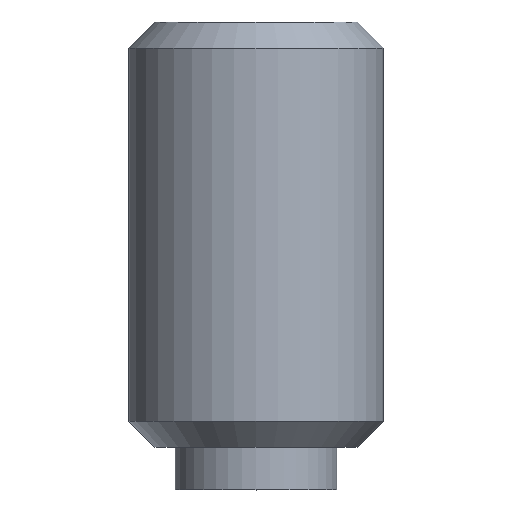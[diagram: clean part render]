
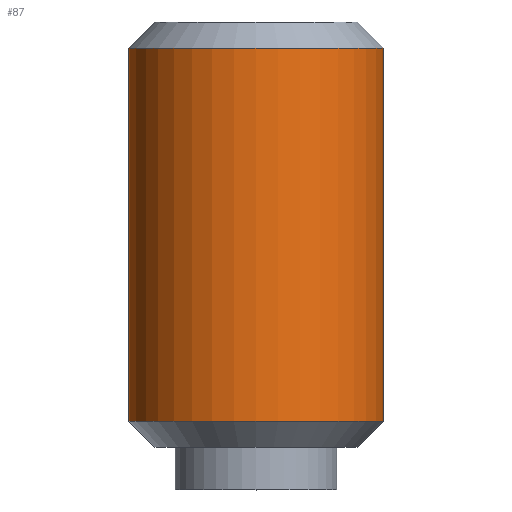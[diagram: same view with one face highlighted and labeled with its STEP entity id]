
A CAD part, top view. The second image highlights one B-rep face of the part: STEP entity #87.
In plain terms, the highlighted cylindrical face has radius 1.5 mm (diameter 3 mm), a full revolution.
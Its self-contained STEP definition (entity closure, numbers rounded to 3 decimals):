
#87 = ADVANCED_FACE( '', ( #118, #119 ), #120, .T. );
#118 = FACE_OUTER_BOUND( '', #152, .T. );
#119 = FACE_OUTER_BOUND( '', #153, .T. );
#120 = CYLINDRICAL_SURFACE( '', #154, 1.5 );
#152 = EDGE_LOOP( '', ( #238 ) );
#153 = EDGE_LOOP( '', ( #239 ) );
#154 = AXIS2_PLACEMENT_3D( '', #240, #241, #242 );
#238 = ORIENTED_EDGE( '', *, *, #270, .F. );
#239 = ORIENTED_EDGE( '', *, *, #271, .T. );
#240 = CARTESIAN_POINT( '', ( 0., 0., 0. ) );
#241 = DIRECTION( '', ( 0., 1., 0. ) );
#242 = DIRECTION( '', ( 0., 0., -1. ) );
#270 = EDGE_CURVE( '', #310, #310, #311, .T. );
#271 = EDGE_CURVE( '', #312, #312, #313, .T. );
#310 = VERTEX_POINT( '', #370 );
#311 = CIRCLE( '', #371, 1.5 );
#312 = VERTEX_POINT( '', #372 );
#313 = CIRCLE( '', #373, 1.5 );
#370 = CARTESIAN_POINT( '', ( 0., 0.807, -1.5 ) );
#371 = AXIS2_PLACEMENT_3D( '', #404, #405, #406 );
#372 = CARTESIAN_POINT( '', ( 0., 5.194, -1.5 ) );
#373 = AXIS2_PLACEMENT_3D( '', #407, #408, #409 );
#404 = CARTESIAN_POINT( '', ( 0., 0.807, 0. ) );
#405 = DIRECTION( '', ( 0., -1., 0. ) );
#406 = DIRECTION( '', ( 0., 0., -1. ) );
#407 = CARTESIAN_POINT( '', ( 0., 5.194, 0. ) );
#408 = DIRECTION( '', ( 0., -1., 0. ) );
#409 = DIRECTION( '', ( 0., 0., -1. ) );
